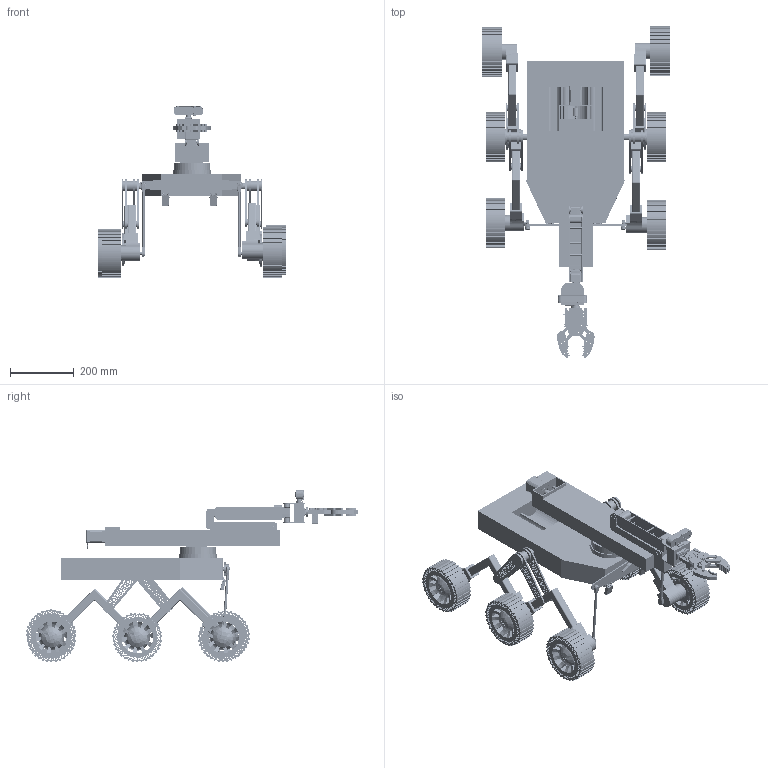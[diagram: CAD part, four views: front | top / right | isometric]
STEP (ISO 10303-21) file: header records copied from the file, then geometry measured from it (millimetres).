
FILE_DESCRIPTION(/* description */ (''),/* implementation_level */ '2;1');
FILE_NAME(/* name */ 'rover finale v9.step',/* time_stamp */ '2025-09-02T14:45:54+05:30',/* author */ (''),/* organization */ (''),/* preprocessor_version */ 'ST-DEVELOPER v20.1',/* originating_system */ 'Autodesk Translation Framework v14.10.0.0',/* authorisation */ '');
FILE_SCHEMA (('AUTOMOTIVE_DESIGN { 1 0 10303 214 3 1 1 }'));
Products named in the file (307): rover finale; boogie frame; boogie frame (1); ROKER FRAME; Component4; Component6; ROKER FRAME (1); ROKER FRAME (2); ROKER FRAME (2) (1); Component10; boogie frame(Mirror); boogie frame (1)(Mirror); ROKER FRAME(Mirror); Component54(Mirror); Component56(Mirror); ROKER FRAME (1)(Mirror); ROKER FRAME (2)(Mirror); ROKER FRAME (2) (1)(Mirror); Component64(Mirror); WHEEL&FLANGE (2); Component29; Component31; 91390A097 (3); Component52(Mirror) (1) (1); IG32 (1) (1); Component34; Component35; Component36; Component37; Component39; Component40; Component41; Component42; Component43; Component45; Component46; Component52(Mirror) (1) (1) (1); WHEEL&FLANGE (2) (1); Component49; Component51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
Assembly tree (337 placements, depth 5):
  rover finale
    boogie frame
    boogie frame (1)
    ROKER FRAME
    Component4
    Component6
    ROKER FRAME (1)
    ROKER FRAME (2)
    ROKER FRAME (2) (1)
    Component10
    boogie frame(Mirror)
    boogie frame (1)(Mirror)
    ROKER FRAME(Mirror)
    Component54(Mirror)
    Component56(Mirror)
    ROKER FRAME (1)(Mirror)
    ROKER FRAME (2)(Mirror)
    ROKER FRAME (2) (1)(Mirror)
    Component64(Mirror)
    WHEEL&FLANGE (2)
      91390A097 (3)  x2
      Component29
      Component31
    Component52(Mirror) (1) (1)
    IG32 (1) (1)
      Component34
      Component35
      Component36
      Component37
      Component39
      Component40
      Component41
      Component42
      Component43
    Component45
    Component46
    Component52(Mirror) (1) (1) (1)
    WHEEL&FLANGE (2) (1)
      91390A097 (3) (1)  x2
      Component49
      Component51
    IG32 (1) (1) (1)
      Component53
      Component54
      Component55
      Component56
      Component58
      Component59
      Component60
      Component61
      Component62
    Component64
    Component65
    Component52(Mirror) (1) (1) (1)(Mirror)
    WHEEL&FLANGE (2) (1)(Mirror)
      91390A097 (3) (1) (1)  x2
      Component68
      Component70
    IG32 (1) (1) (1)(Mirror)
      Component72
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Bounding box: 586.5 x 1040.22 x 541.01 mm (x, y, z)
Volume: 9204036.9 mm3; surface area: 4278377.3 mm2
Topology: 335 solids, 375 shells, 20766 faces, 56079 edges, 36800 vertices
Faces by surface type: plane 11647, cylinder 6227, bspline 1875, cone 539, torus 370, sphere 108
Full cylindrical faces by diameter (mm): 1 x12, 1.092 x4, 1.2 x7, 1.4 x2, 1.5 x384, 1.6 x49, 1.67 x16, 1.673 x16, 2 x17, 2.2 x32, 2.35 x60, 2.46 x32, 2.5 x171, 2.529 x12, 2.6 x4, 2.8 x1, 3 x198, 3.2 x9, 3.5 x18, 3.833 x16, 4 x86, 4.5 x2, 4.7 x4, 5 x32, 5.2 x2, 5.3 x1, 5.5 x2, 5.75 x1, 6 x50, 6.05 x4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
Entity records: 849546 total; most frequent: CARTESIAN_POINT 326999, ORIENTED_EDGE 110056, DIRECTION 100166, EDGE_CURVE 55028, VERTEX_POINT 36203, LINE 35762, VECTOR 35762, AXIS2_PLACEMENT_3D 32202
